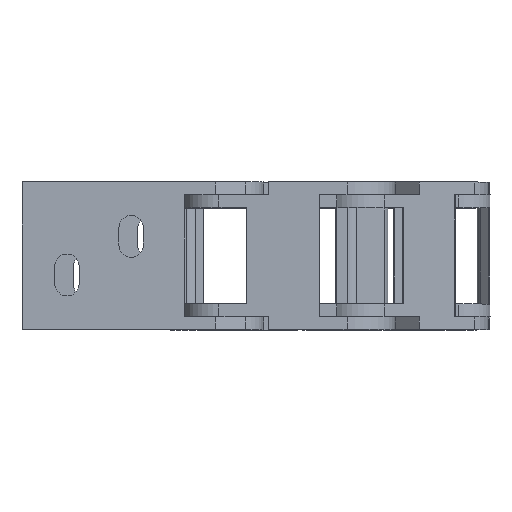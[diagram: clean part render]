
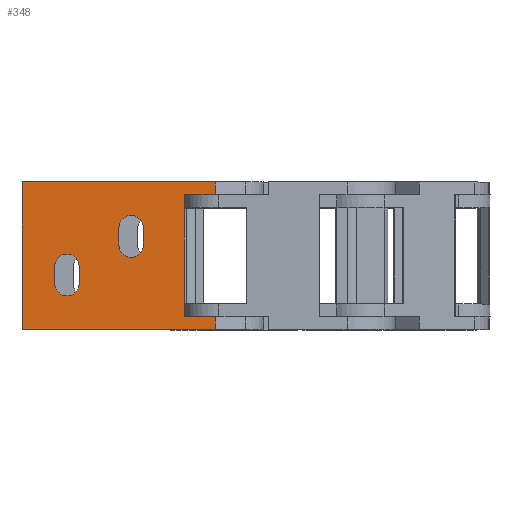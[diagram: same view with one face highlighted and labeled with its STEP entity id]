
A CAD part, top view. The second image highlights one B-rep face of the part: STEP entity #348.
In plain terms, the highlighted planar face has unit normal (0, 0, 1).
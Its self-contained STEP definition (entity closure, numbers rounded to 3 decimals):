
#348=ADVANCED_FACE('',(#1430,#1432,#1434),#1436,.T.);
#1430=FACE_BOUND('',#1431,.T.);
#1431=EDGE_LOOP('',(#2327,#2328,#2329,#2330,#2331,#2332,#2333,#2334));
#1432=FACE_BOUND('',#1433,.T.);
#1433=EDGE_LOOP('',(#2335,#2336,#2337,#2338));
#1434=FACE_BOUND('',#1435,.T.);
#1435=EDGE_LOOP('',(#2339,#2340,#2341,#2342));
#1436=PLANE('',#1437);
#1437=AXIS2_PLACEMENT_3D('',#1438,#1439,#1440);
#1438=CARTESIAN_POINT('',(-30.4,-11.5,7.5));
#1439=DIRECTION('',(0.,0.,1.));
#1440=DIRECTION('',(1.,0.,0.));
#2327=ORIENTED_EDGE('',*,*,#2983,.T.);
#2328=ORIENTED_EDGE('',*,*,#2984,.T.);
#2329=ORIENTED_EDGE('',*,*,#2985,.F.);
#2330=ORIENTED_EDGE('',*,*,#2986,.F.);
#2331=ORIENTED_EDGE('',*,*,#2987,.T.);
#2332=ORIENTED_EDGE('',*,*,#2988,.F.);
#2333=ORIENTED_EDGE('',*,*,#2989,.F.);
#2334=ORIENTED_EDGE('',*,*,#2990,.F.);
#2335=ORIENTED_EDGE('',*,*,#2991,.T.);
#2336=ORIENTED_EDGE('',*,*,#2992,.T.);
#2337=ORIENTED_EDGE('',*,*,#2993,.T.);
#2338=ORIENTED_EDGE('',*,*,#2994,.T.);
#2339=ORIENTED_EDGE('',*,*,#2995,.T.);
#2340=ORIENTED_EDGE('',*,*,#2996,.T.);
#2341=ORIENTED_EDGE('',*,*,#2997,.T.);
#2342=ORIENTED_EDGE('',*,*,#2998,.T.);
#2983=EDGE_CURVE('',#3323,#3324,#3325,.T.);
#2984=EDGE_CURVE('',#3324,#3326,#3327,.T.);
#2985=EDGE_CURVE('',#3328,#3326,#3329,.T.);
#2986=EDGE_CURVE('',#3330,#3328,#3331,.T.);
#2987=EDGE_CURVE('',#3330,#3332,#3333,.T.);
#2988=EDGE_CURVE('',#3334,#3332,#3335,.T.);
#2989=EDGE_CURVE('',#3336,#3334,#3337,.T.);
#2990=EDGE_CURVE('',#3323,#3336,#3338,.T.);
#2991=EDGE_CURVE('',#3339,#3340,#3341,.F.);
#2992=EDGE_CURVE('',#3340,#3342,#3343,.F.);
#2993=EDGE_CURVE('',#3342,#3344,#3345,.F.);
#2994=EDGE_CURVE('',#3344,#3339,#3346,.F.);
#2995=EDGE_CURVE('',#3347,#3348,#3349,.F.);
#2996=EDGE_CURVE('',#3348,#3350,#3351,.F.);
#2997=EDGE_CURVE('',#3350,#3352,#3353,.F.);
#2998=EDGE_CURVE('',#3352,#3347,#3354,.F.);
#3323=VERTEX_POINT('',#3903);
#3324=VERTEX_POINT('',#3904);
#3325=LINE('',#3905,#3906);
#3326=VERTEX_POINT('',#3908);
#3327=LINE('',#3909,#3910);
#3328=VERTEX_POINT('',#3912);
#3329=LINE('',#3913,#3914);
#3330=VERTEX_POINT('',#3916);
#3331=LINE('',#3917,#3918);
#3332=VERTEX_POINT('',#3920);
#3333=LINE('',#3921,#3922);
#3334=VERTEX_POINT('',#3924);
#3335=LINE('',#3925,#3926);
#3336=VERTEX_POINT('',#3928);
#3337=LINE('',#3929,#3930);
#3338=LINE('',#3932,#3933);
#3339=VERTEX_POINT('',#3935);
#3340=VERTEX_POINT('',#3936);
#3341=LINE('',#3937,#3938);
#3342=VERTEX_POINT('',#3940);
#3343=CIRCLE('',#3941,1.9);
#3344=VERTEX_POINT('',#3945);
#3345=LINE('',#3946,#3947);
#3346=CIRCLE('',#3949,1.9);
#3347=VERTEX_POINT('',#3953);
#3348=VERTEX_POINT('',#3954);
#3349=LINE('',#3955,#3956);
#3350=VERTEX_POINT('',#3958);
#3351=CIRCLE('',#3959,1.9);
#3352=VERTEX_POINT('',#3963);
#3353=LINE('',#3964,#3965);
#3354=CIRCLE('',#3967,1.9);
#3903=CARTESIAN_POINT('',(-30.4,-11.5,7.5));
#3904=CARTESIAN_POINT('',(-0.275,-11.5,7.5));
#3905=CARTESIAN_POINT('',(-30.4,-11.5,7.5));
#3906=VECTOR('',#3907,1.);
#3907=DIRECTION('',(1.,0.,0.));
#3908=CARTESIAN_POINT('',(-0.275,-9.5,7.5));
#3909=CARTESIAN_POINT('',(-0.275,-11.5,7.5));
#3910=VECTOR('',#3911,1.);
#3911=DIRECTION('',(0.,1.,0.));
#3912=CARTESIAN_POINT('',(-5.1,-9.5,7.5));
#3913=CARTESIAN_POINT('',(-5.1,-9.5,7.5));
#3914=VECTOR('',#3915,1.);
#3915=DIRECTION('',(1.,0.,0.));
#3916=CARTESIAN_POINT('',(-5.1,9.5,7.5));
#3917=CARTESIAN_POINT('',(-5.1,9.5,7.5));
#3918=VECTOR('',#3919,1.);
#3919=DIRECTION('',(0.,-1.,0.));
#3920=CARTESIAN_POINT('',(-0.275,9.5,7.5));
#3921=CARTESIAN_POINT('',(-5.1,9.5,7.5));
#3922=VECTOR('',#3923,1.);
#3923=DIRECTION('',(1.,0.,0.));
#3924=CARTESIAN_POINT('',(-0.275,11.5,7.5));
#3925=CARTESIAN_POINT('',(-0.275,11.5,7.5));
#3926=VECTOR('',#3927,1.);
#3927=DIRECTION('',(0.,-1.,0.));
#3928=CARTESIAN_POINT('',(-30.4,11.5,7.5));
#3929=CARTESIAN_POINT('',(-30.4,11.5,7.5));
#3930=VECTOR('',#3931,1.);
#3931=DIRECTION('',(1.,0.,0.));
#3932=CARTESIAN_POINT('',(-30.4,-11.5,7.5));
#3933=VECTOR('',#3934,1.);
#3934=DIRECTION('',(0.,1.,0.));
#3935=CARTESIAN_POINT('',(-11.5,4.35,7.5));
#3936=CARTESIAN_POINT('',(-11.5,1.65,7.5));
#3937=CARTESIAN_POINT('',(-11.5,1.65,7.5));
#3938=VECTOR('',#3939,1.);
#3939=DIRECTION('',(0.,1.,0.));
#3940=CARTESIAN_POINT('',(-15.3,1.65,7.5));
#3941=AXIS2_PLACEMENT_3D('',#3942,#3943,#3944);
#3942=CARTESIAN_POINT('',(-13.4,1.65,7.5));
#3943=DIRECTION('',(0.,-0.,1.));
#3944=DIRECTION('',(-1.,0.,0.));
#3945=CARTESIAN_POINT('',(-15.3,4.35,7.5));
#3946=CARTESIAN_POINT('',(-15.3,4.35,7.5));
#3947=VECTOR('',#3948,1.);
#3948=DIRECTION('',(0.,-1.,0.));
#3949=AXIS2_PLACEMENT_3D('',#3950,#3951,#3952);
#3950=CARTESIAN_POINT('',(-13.4,4.35,7.5));
#3951=DIRECTION('',(0.,0.,1.));
#3952=DIRECTION('',(1.,0.,0.));
#3953=CARTESIAN_POINT('',(-21.5,-1.65,7.5));
#3954=CARTESIAN_POINT('',(-21.5,-4.35,7.5));
#3955=CARTESIAN_POINT('',(-21.5,-4.35,7.5));
#3956=VECTOR('',#3957,1.);
#3957=DIRECTION('',(0.,1.,0.));
#3958=CARTESIAN_POINT('',(-25.3,-4.35,7.5));
#3959=AXIS2_PLACEMENT_3D('',#3960,#3961,#3962);
#3960=CARTESIAN_POINT('',(-23.4,-4.35,7.5));
#3961=DIRECTION('',(0.,0.,1.));
#3962=DIRECTION('',(-1.,0.,0.));
#3963=CARTESIAN_POINT('',(-25.3,-1.65,7.5));
#3964=CARTESIAN_POINT('',(-25.3,-1.65,7.5));
#3965=VECTOR('',#3966,1.);
#3966=DIRECTION('',(0.,-1.,0.));
#3967=AXIS2_PLACEMENT_3D('',#3968,#3969,#3970);
#3968=CARTESIAN_POINT('',(-23.4,-1.65,7.5));
#3969=DIRECTION('',(0.,0.,1.));
#3970=DIRECTION('',(1.,0.,0.));
